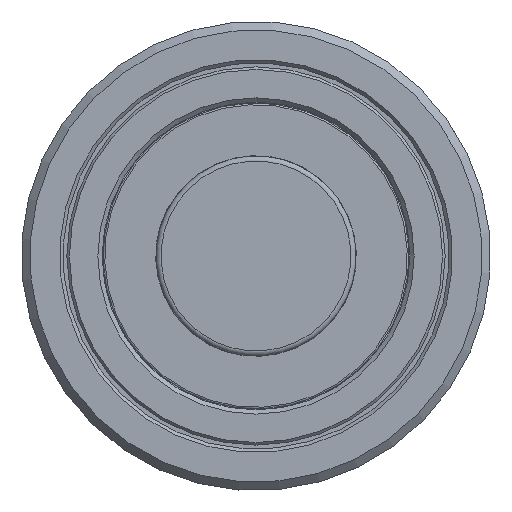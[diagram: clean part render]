
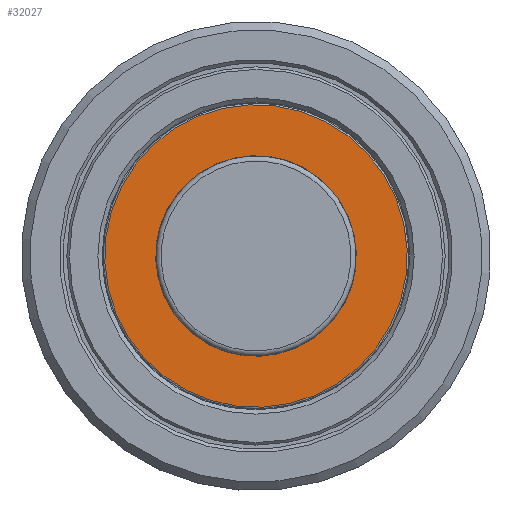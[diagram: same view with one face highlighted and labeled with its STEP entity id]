
A CAD part, left-side view. The second image highlights one B-rep face of the part: STEP entity #32027.
In plain terms, the highlighted planar face has unit normal (-1, 0, 0).
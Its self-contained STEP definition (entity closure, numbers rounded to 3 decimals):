
#1502=PLANE('',#33488);
#1668=FACE_BOUND('',#4626,.T.);
#2876=FACE_OUTER_BOUND('',#4625,.T.);
#4625=EDGE_LOOP('',(#26220));
#4626=EDGE_LOOP('',(#26221));
#11576=CIRCLE('',#33486,17.8);
#11578=CIRCLE('',#33489,11.8);
#13938=VERTEX_POINT('',#61484);
#13939=VERTEX_POINT('',#61489);
#18197=EDGE_CURVE('',#13938,#13938,#11576,.T.);
#18199=EDGE_CURVE('',#13939,#13939,#11578,.T.);
#26220=ORIENTED_EDGE('',*,*,#18197,.F.);
#26221=ORIENTED_EDGE('',*,*,#18199,.T.);
#32027=ADVANCED_FACE('',(#2876,#1668),#1502,.T.);
#33486=AXIS2_PLACEMENT_3D('',#61486,#37007,#37008);
#33488=AXIS2_PLACEMENT_3D('',#61488,#37011,#37012);
#33489=AXIS2_PLACEMENT_3D('',#61490,#37013,#37014);
#37007=DIRECTION('center_axis',(1.,0.,0.));
#37008=DIRECTION('ref_axis',(0.,0.217,0.976));
#37011=DIRECTION('center_axis',(-1.,0.,0.));
#37012=DIRECTION('ref_axis',(0.,-0.976,0.217));
#37013=DIRECTION('center_axis',(1.,0.,0.));
#37014=DIRECTION('ref_axis',(0.,0.217,0.976));
#61484=CARTESIAN_POINT('',(-35.3,-17.374,3.869));
#61486=CARTESIAN_POINT('Origin',(-35.3,0.,0.));
#61488=CARTESIAN_POINT('Origin',(-35.3,-3.913,-17.57));
#61489=CARTESIAN_POINT('',(-35.3,2.565,11.518));
#61490=CARTESIAN_POINT('Origin',(-35.3,0.,0.));
